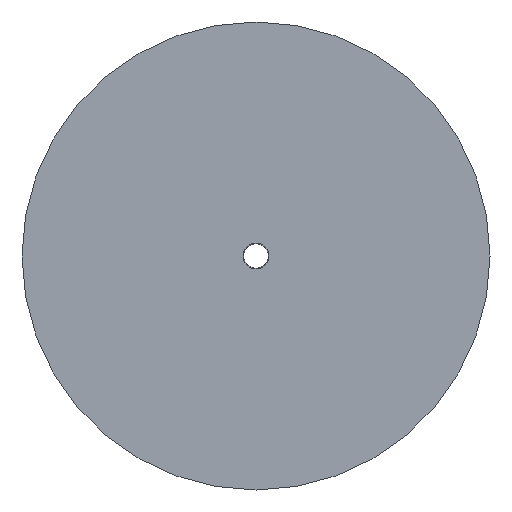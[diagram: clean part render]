
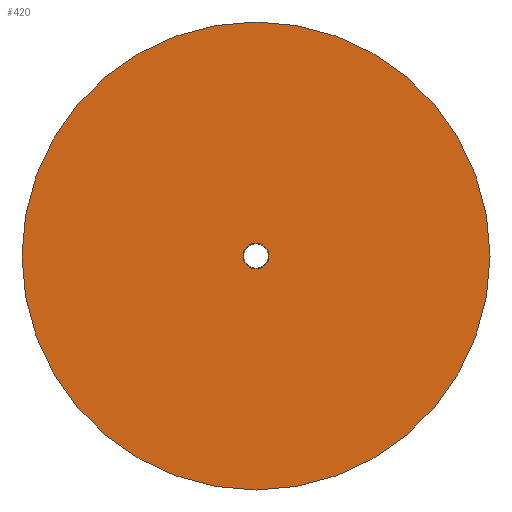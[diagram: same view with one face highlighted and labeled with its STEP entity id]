
A CAD part, front view. The second image highlights one B-rep face of the part: STEP entity #420.
In plain terms, the highlighted planar face has unit normal (0, -1, 0).
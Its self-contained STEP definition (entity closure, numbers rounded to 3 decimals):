
#3 = DIRECTION ( 'NONE',  ( 0., -1., 0. ) ) ;
#10 = CARTESIAN_POINT ( 'NONE',  ( 0., 0., 2.086 ) ) ;
#21 = VERTEX_POINT ( 'NONE', #238 ) ;
#24 = AXIS2_PLACEMENT_3D ( 'NONE', #344, #96, #529 ) ;
#33 = DIRECTION ( 'NONE',  ( 0., 0., 1. ) ) ;
#34 = EDGE_CURVE ( 'NONE', #294, #21, #307, .T. ) ;
#88 = CIRCLE ( 'NONE', #165, 38. ) ;
#96 = DIRECTION ( 'NONE',  ( 0., -1., 0. ) ) ;
#109 = FACE_OUTER_BOUND ( 'NONE', #211, .T. ) ;
#113 = AXIS2_PLACEMENT_3D ( 'NONE', #424, #3, #437 ) ;
#117 = CARTESIAN_POINT ( 'NONE',  ( 0., 0., 0. ) ) ;
#122 = CIRCLE ( 'NONE', #24, 2.086 ) ;
#144 = VERTEX_POINT ( 'NONE', #558 ) ;
#157 = CARTESIAN_POINT ( 'NONE',  ( -7.468, 0., 0. ) ) ;
#165 = AXIS2_PLACEMENT_3D ( 'NONE', #117, #249, #463 ) ;
#184 = EDGE_LOOP ( 'NONE', ( #553, #376 ) ) ;
#197 = PLANE ( 'NONE',  #246 ) ;
#204 = DIRECTION ( 'NONE',  ( 0., 1., 0. ) ) ;
#205 = VERTEX_POINT ( 'NONE', #10 ) ;
#211 = EDGE_LOOP ( 'NONE', ( #465, #411 ) ) ;
#238 = CARTESIAN_POINT ( 'NONE',  ( 38., 0., 0. ) ) ;
#241 = CARTESIAN_POINT ( 'NONE',  ( -38., 0., 0. ) ) ;
#246 = AXIS2_PLACEMENT_3D ( 'NONE', #157, #204, #33 ) ;
#249 = DIRECTION ( 'NONE',  ( 0., 1., 0. ) ) ;
#283 = CARTESIAN_POINT ( 'NONE',  ( 0., 0., 0. ) ) ;
#294 = VERTEX_POINT ( 'NONE', #241 ) ;
#307 = CIRCLE ( 'NONE', #470, 38. ) ;
#344 = CARTESIAN_POINT ( 'NONE',  ( 0., 0., 0. ) ) ;
#345 = CIRCLE ( 'NONE', #113, 2.086 ) ;
#369 = DIRECTION ( 'NONE',  ( 0., 1., 0. ) ) ;
#376 = ORIENTED_EDGE ( 'NONE', *, *, #428, .F. ) ;
#408 = FACE_BOUND ( 'NONE', #184, .T. ) ;
#411 = ORIENTED_EDGE ( 'NONE', *, *, #34, .F. ) ;
#420 = ADVANCED_FACE ( 'NONE', ( #109, #408 ), #197, .F. ) ;
#424 = CARTESIAN_POINT ( 'NONE',  ( 0., 0., 0. ) ) ;
#428 = EDGE_CURVE ( 'NONE', #205, #144, #122, .T. ) ;
#437 = DIRECTION ( 'NONE',  ( 0., 0., -1. ) ) ;
#448 = EDGE_CURVE ( 'NONE', #21, #294, #88, .T. ) ;
#463 = DIRECTION ( 'NONE',  ( 1., 0., 0. ) ) ;
#465 = ORIENTED_EDGE ( 'NONE', *, *, #448, .F. ) ;
#468 = EDGE_CURVE ( 'NONE', #144, #205, #345, .T. ) ;
#470 = AXIS2_PLACEMENT_3D ( 'NONE', #283, #369, #555 ) ;
#529 = DIRECTION ( 'NONE',  ( 0., 0., -1. ) ) ;
#553 = ORIENTED_EDGE ( 'NONE', *, *, #468, .F. ) ;
#555 = DIRECTION ( 'NONE',  ( 1., 0., 0. ) ) ;
#558 = CARTESIAN_POINT ( 'NONE',  ( 0., 0., -2.086 ) ) ;
